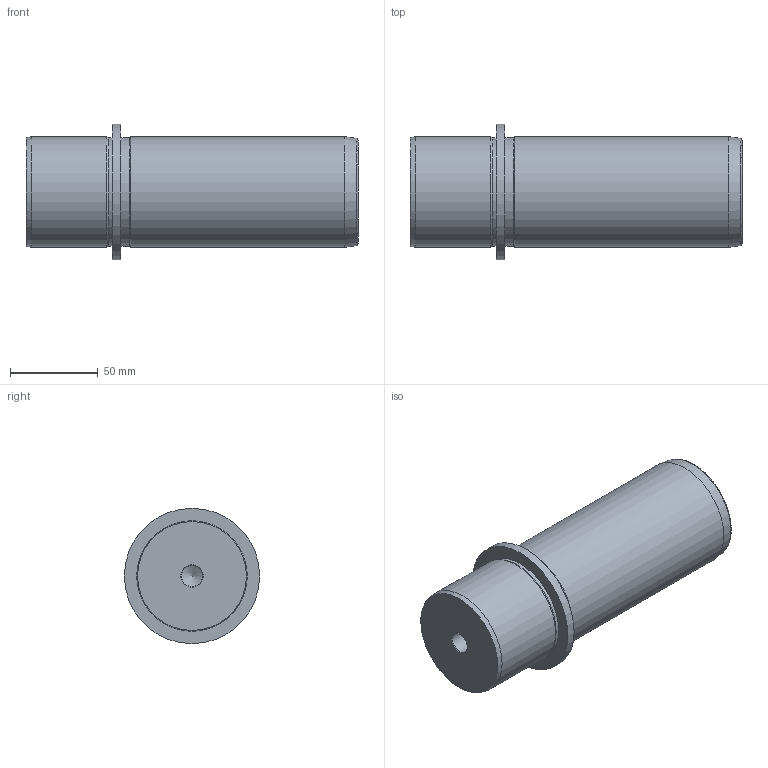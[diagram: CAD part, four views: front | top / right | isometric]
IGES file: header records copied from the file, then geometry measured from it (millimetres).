
Global section: file name: CEBT63140.ipt; native system: Autodesk Inventor 2021; preprocessor: unknown; author: SM; date: 20211217.132424; units: millimetre
Bounding box: 189 x 77 x 77 mm (x, y, z)
Volume: 592079.1 mm3; surface area: 47790.9 mm2
Topology: 1 solids, 1 shells, 17 faces, 35 edges, 22 vertices
Faces by surface type: cylinder 5, cone 4, plane 4, revolution 3, bspline 1
Full cylindrical faces by diameter (mm): 62 x2, 63 x2, 77 x1
